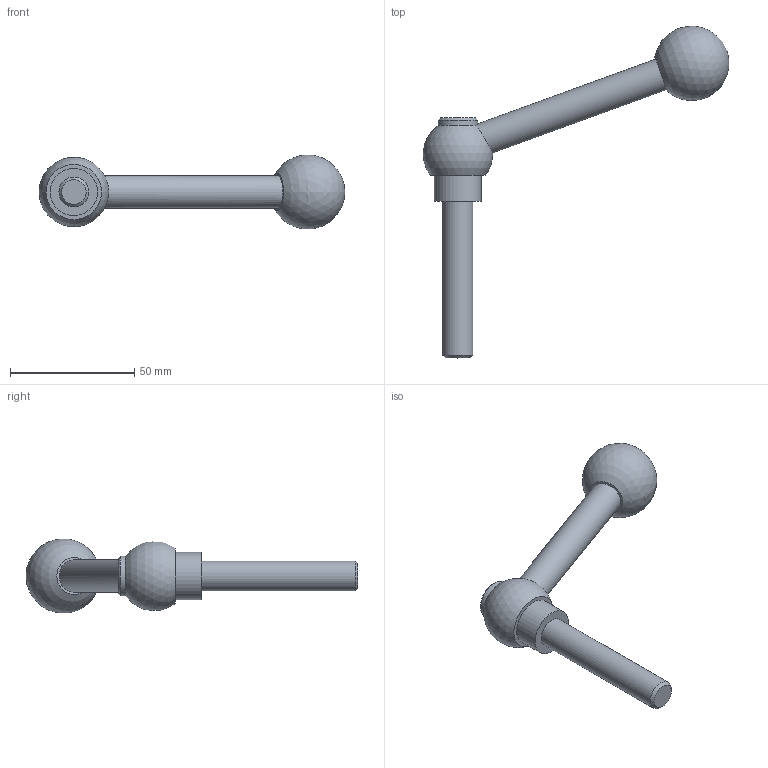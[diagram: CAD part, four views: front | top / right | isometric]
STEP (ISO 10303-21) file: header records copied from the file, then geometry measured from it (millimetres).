
FILE_DESCRIPTION( ( 'STEP AP203' ), '1' );
FILE_NAME( 'C:/Temp/Ganter_Step_05_03_2020/data/2_1/gn_6337_3/gn_6337_3_ms/gn_6337_3_ms_n/Adjustable clamping lever with bolt GN 6337.3-28-M12-63-N.stp', '2020-03-05T11:41:20', ( 'License CC BY-ND 4.0' ), ( 'CADENAS' ), ' ', 'PARTsolutions', ' ' );
FILE_SCHEMA( ( 'CONFIG_CONTROL_DESIGN' ) );
Length unit declared in the file: millimetre
Products named in the file (1): _Adjustable clamping lever with bolt GN 6337.3-28-M12-63-N
Bounding box: 122.99 x 133.49 x 29.7 mm (x, y, z)
Volume: 44621.2 mm3; surface area: 11070.9 mm2
Topology: 1 solids, 1 shells, 13 faces, 25 edges, 16 vertices
Faces by surface type: plane 5, cylinder 4, cone 2, sphere 2
Full cylindrical faces by diameter (mm): 12 x1, 13 x1, 15.969 x1, 19 x1
Entity records: 386 total; most frequent: CARTESIAN_POINT 124, DIRECTION 50, ORIENTED_EDGE 26, AXIS2_PLACEMENT_3D 25, EDGE_LOOP 23, FACE_OUTER_BOUND 18, ADVANCED_FACE 13, VERTEX_POINT 13
